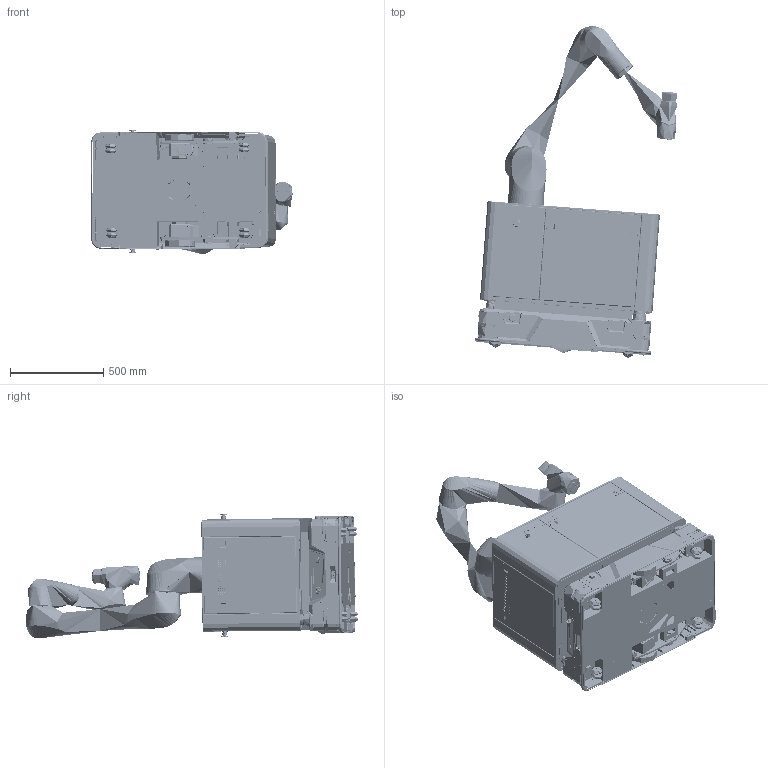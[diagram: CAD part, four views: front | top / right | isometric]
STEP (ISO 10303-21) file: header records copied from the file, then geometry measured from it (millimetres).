
FILE_DESCRIPTION (( 'STEP AP214' ), '1' );
FILE_NAME ('复合机器人 600C .STEP', '2022-12-30T05:37:50', ( '' ), ( '' ), 'SwSTEP 2.0', 'SolidWorks 2018', '' );
FILE_SCHEMA (( 'AUTOMOTIVE_DESIGN' ));
Length unit declared in the file: millimetre
Products named in the file (1): 复合机器人 600C 
Bounding box: 1084.09 x 1780.71 x 666.32 mm (x, y, z)
Topology: 0 solids, 1310 shells, 13840 faces, 45510 edges, 32860 vertices
Faces by surface type: plane 6501, cylinder 5010, bspline 1544, cone 727, torus 56, sphere 2
Full cylindrical faces by diameter (mm): 0.4 x1
Entity records: 871241 total; most frequent: CARTESIAN_POINT 341712, ORIENTED_EDGE 76712, DIRECTION 67964, EDGE_CURVE 45402, VERTEX_POINT 32857, VECTOR 24076, LINE 24076, AXIS2_PLACEMENT_3D 21944
